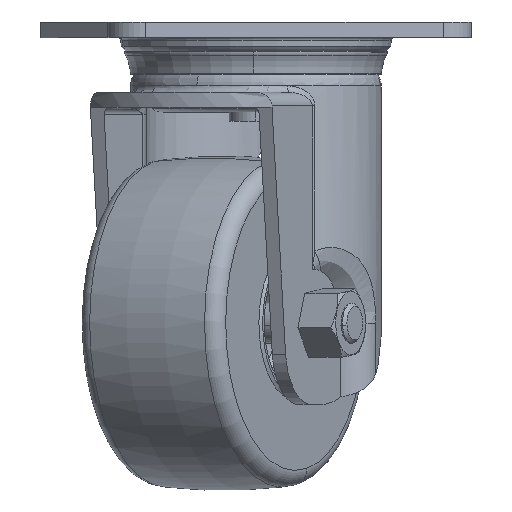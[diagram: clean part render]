
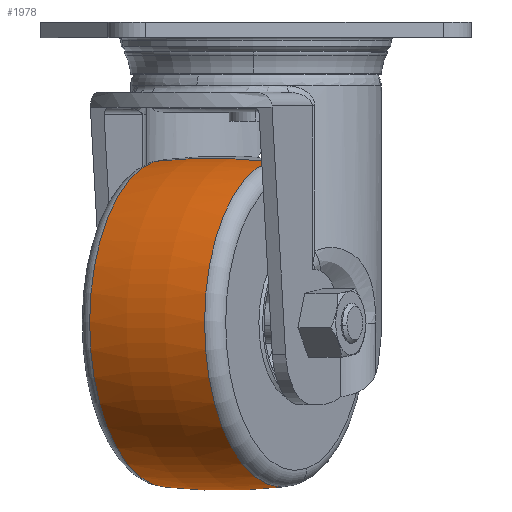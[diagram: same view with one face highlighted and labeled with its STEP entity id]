
A CAD part, top view. The second image highlights one B-rep face of the part: STEP entity #1978.
In plain terms, the highlighted toroidal (fillet/blend) face has major radius 150 mm and minor radius 200 mm.
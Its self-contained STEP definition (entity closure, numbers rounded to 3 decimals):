
#85 = CIRCLE ( 'NONE', #7943, 200. ) ;
#313 = ORIENTED_EDGE ( 'NONE', *, *, #7502, .F. ) ;
#725 = CIRCLE ( 'NONE', #8992, 200. ) ;
#802 = DIRECTION ( 'NONE',  ( 0., 1., 0. ) ) ;
#1087 = VERTEX_POINT ( 'NONE', #1122 ) ;
#1090 = CARTESIAN_POINT ( 'NONE',  ( 0., 19.487, 49.048 ) ) ;
#1122 = CARTESIAN_POINT ( 'NONE',  ( 0., -19.487, 49.048 ) ) ;
#1502 = ORIENTED_EDGE ( 'NONE', *, *, #4787, .T. ) ;
#1978 = ADVANCED_FACE ( 'NONE', ( #7013 ), #2867, .T. ) ;
#2419 = CIRCLE ( 'NONE', #7258, 49.048 ) ;
#2760 = ORIENTED_EDGE ( 'NONE', *, *, #9682, .F. ) ;
#2785 = DIRECTION ( 'NONE',  ( -1., 0., 0. ) ) ;
#2867 = TOROIDAL_SURFACE ( 'NONE', #8220, -150., 200. ) ;
#3179 = VERTEX_POINT ( 'NONE', #8704 ) ;
#3268 = DIRECTION ( 'NONE',  ( 0., 1., 0. ) ) ;
#3414 = CARTESIAN_POINT ( 'NONE',  ( 0., 0., 150. ) ) ;
#3591 = CARTESIAN_POINT ( 'NONE',  ( 0., 19.487, 0. ) ) ;
#4208 = AXIS2_PLACEMENT_3D ( 'NONE', #5546, #802, #6337 ) ;
#4215 = DIRECTION ( 'NONE',  ( 0., 0., -1. ) ) ;
#4404 = DIRECTION ( 'NONE',  ( 0., 0., 1. ) ) ;
#4787 = EDGE_CURVE ( 'NONE', #3179, #1087, #6681, .T. ) ;
#5012 = ORIENTED_EDGE ( 'NONE', *, *, #6919, .T. ) ;
#5546 = CARTESIAN_POINT ( 'NONE',  ( 0., -19.487, 0. ) ) ;
#6057 = CARTESIAN_POINT ( 'NONE',  ( 0., 19.487, -49.048 ) ) ;
#6337 = DIRECTION ( 'NONE',  ( 0., 0., 1. ) ) ;
#6388 = CARTESIAN_POINT ( 'NONE',  ( 0., 0., 0. ) ) ;
#6661 = EDGE_LOOP ( 'NONE', ( #313, #1502, #5012, #2760 ) ) ;
#6681 = CIRCLE ( 'NONE', #4208, 49.048 ) ;
#6919 = EDGE_CURVE ( 'NONE', #1087, #9542, #85, .T. ) ;
#7013 = FACE_OUTER_BOUND ( 'NONE', #6661, .T. ) ;
#7258 = AXIS2_PLACEMENT_3D ( 'NONE', #3591, #8948, #4404 ) ;
#7334 = VERTEX_POINT ( 'NONE', #6057 ) ;
#7434 = CARTESIAN_POINT ( 'NONE',  ( 0., 0., -150. ) ) ;
#7502 = EDGE_CURVE ( 'NONE', #3179, #7334, #725, .T. ) ;
#7943 = AXIS2_PLACEMENT_3D ( 'NONE', #7434, #2785, #8192 ) ;
#8192 = DIRECTION ( 'NONE',  ( 0., 0., 1. ) ) ;
#8220 = AXIS2_PLACEMENT_3D ( 'NONE', #6388, #3268, #8638 ) ;
#8638 = DIRECTION ( 'NONE',  ( 0., 0., 1. ) ) ;
#8704 = CARTESIAN_POINT ( 'NONE',  ( 0., -19.487, -49.048 ) ) ;
#8773 = DIRECTION ( 'NONE',  ( 1., 0., 0. ) ) ;
#8948 = DIRECTION ( 'NONE',  ( 0., 1., 0. ) ) ;
#8992 = AXIS2_PLACEMENT_3D ( 'NONE', #3414, #8773, #4215 ) ;
#9542 = VERTEX_POINT ( 'NONE', #1090 ) ;
#9682 = EDGE_CURVE ( 'NONE', #7334, #9542, #2419, .T. ) ;
